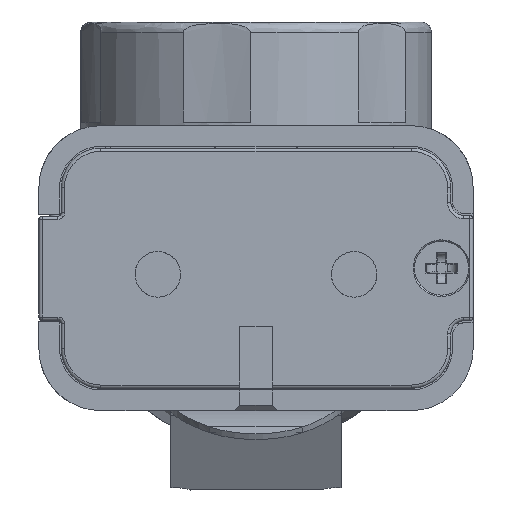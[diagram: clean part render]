
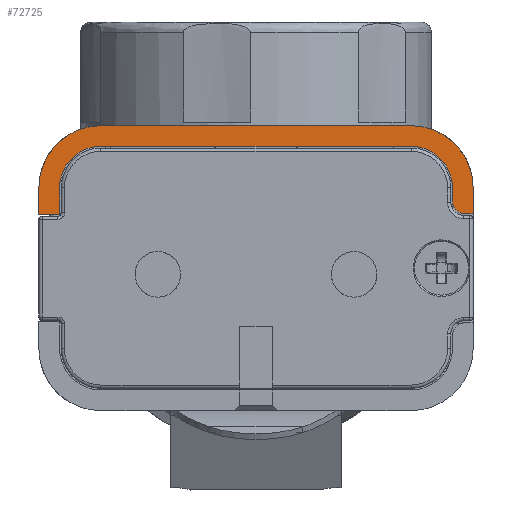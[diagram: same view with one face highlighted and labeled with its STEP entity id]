
A CAD part, front view. The second image highlights one B-rep face of the part: STEP entity #72725.
In plain terms, the highlighted planar face has unit normal (0, -1, 0) as drawn and (0, 0, -1) by its records, which use the part's own axes.
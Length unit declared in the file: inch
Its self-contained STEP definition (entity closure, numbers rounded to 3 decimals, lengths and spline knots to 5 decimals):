
#257 = ORIENTED_EDGE ( 'NONE', *, *, #60369, .F. ) ;
#299 = CARTESIAN_POINT ( 'NONE',  ( 1.18788, -0.26603, -2.567 ) ) ;
#1571 = VERTEX_POINT ( 'NONE', #76363 ) ;
#1895 = CIRCLE ( 'NONE', #27586, 0.375 ) ;
#2346 = VERTEX_POINT ( 'NONE', #21755 ) ;
#3859 = ORIENTED_EDGE ( 'NONE', *, *, #70176, .F. ) ;
#3864 = CARTESIAN_POINT ( 'NONE',  ( -1.31288, -0.26603, -2.567 ) ) ;
#4079 = DIRECTION ( 'NONE',  ( 0., 0., 1. ) ) ;
#4846 = DIRECTION ( 'NONE',  ( 0., -1., 0. ) ) ;
#5383 = CARTESIAN_POINT ( 'NONE',  ( 0.93788, -0.64103, -2.567 ) ) ;
#7692 = CARTESIAN_POINT ( 'NONE',  ( -0.93788, -0.51603, -2.567 ) ) ;
#8318 = EDGE_CURVE ( 'NONE', #66643, #16375, #48328, .T. ) ;
#8803 = ORIENTED_EDGE ( 'NONE', *, *, #22069, .T. ) ;
#8861 = LINE ( 'NONE', #299, #59658 ) ;
#8920 = CARTESIAN_POINT ( 'NONE',  ( -0.93788, -0.64103, -2.567 ) ) ;
#8984 = CIRCLE ( 'NONE', #97490, 0.07874 ) ;
#9020 = EDGE_CURVE ( 'NONE', #70859, #66643, #8861, .T. ) ;
#9208 = AXIS2_PLACEMENT_3D ( 'NONE', #46484, #61579, #55035 ) ;
#9941 = CARTESIAN_POINT ( 'NONE',  ( 0.93788, -0.51603, -2.567 ) ) ;
#10462 = CARTESIAN_POINT ( 'NONE',  ( -1.18788, -0.26603, -2.567 ) ) ;
#10577 = DIRECTION ( 'NONE',  ( 1., 0., 0. ) ) ;
#11908 = LINE ( 'NONE', #3864, #91564 ) ;
#13324 = CARTESIAN_POINT ( 'NONE',  ( -1.18788, -0.10472, -2.567 ) ) ;
#14497 = DIRECTION ( 'NONE',  ( 1., 0., 0. ) ) ;
#16124 = DIRECTION ( 'NONE',  ( 0., 0., -1. ) ) ;
#16332 = CARTESIAN_POINT ( 'NONE',  ( -0.93788, -0.64103, -2.567 ) ) ;
#16375 = VERTEX_POINT ( 'NONE', #9941 ) ;
#17953 = DIRECTION ( 'NONE',  ( -1., 0., 0. ) ) ;
#18260 = VECTOR ( 'NONE', #64308, 39.37008 ) ;
#20032 = CARTESIAN_POINT ( 'NONE',  ( 1.18788, -0.26603, -2.567 ) ) ;
#20228 = EDGE_CURVE ( 'NONE', #69282, #52645, #52592, .T. ) ;
#21755 = CARTESIAN_POINT ( 'NONE',  ( -1.31288, -0.10472, -2.567 ) ) ;
#22069 = EDGE_CURVE ( 'NONE', #2346, #95927, #82004, .T. ) ;
#24036 = CARTESIAN_POINT ( 'NONE',  ( 1.26662, -0.10846, -2.567 ) ) ;
#24077 = DIRECTION ( 'NONE',  ( -1., 0., 0. ) ) ;
#24567 = CARTESIAN_POINT ( 'NONE',  ( 0.93788, -0.26603, -2.567 ) ) ;
#26174 = CARTESIAN_POINT ( 'NONE',  ( 1.26662, -0.1872, -2.567 ) ) ;
#27205 = VERTEX_POINT ( 'NONE', #50253 ) ;
#27586 = AXIS2_PLACEMENT_3D ( 'NONE', #39018, #40511, #48083 ) ;
#27810 = CIRCLE ( 'NONE', #40686, 0.375 ) ;
#27955 = ORIENTED_EDGE ( 'NONE', *, *, #9020, .F. ) ;
#28270 = EDGE_CURVE ( 'NONE', #1571, #40901, #83106, .T. ) ;
#29056 = AXIS2_PLACEMENT_3D ( 'NONE', #24567, #30616, #24077 ) ;
#30616 = DIRECTION ( 'NONE',  ( 0., 0., -1. ) ) ;
#32406 = ORIENTED_EDGE ( 'NONE', *, *, #55524, .T. ) ;
#32730 = DIRECTION ( 'NONE',  ( -1., 0., 0. ) ) ;
#33101 = LINE ( 'NONE', #10462, #18260 ) ;
#33306 = VERTEX_POINT ( 'NONE', #5383 ) ;
#36208 = ORIENTED_EDGE ( 'NONE', *, *, #82889, .F. ) ;
#39018 = CARTESIAN_POINT ( 'NONE',  ( -0.93788, -0.26603, -2.567 ) ) ;
#40099 = ORIENTED_EDGE ( 'NONE', *, *, #28270, .T. ) ;
#40511 = DIRECTION ( 'NONE',  ( 0., 0., 1. ) ) ;
#40686 = AXIS2_PLACEMENT_3D ( 'NONE', #58901, #50365, #89634 ) ;
#40901 = VERTEX_POINT ( 'NONE', #43936 ) ;
#41160 = VECTOR ( 'NONE', #32730, 39.37008 ) ;
#43936 = CARTESIAN_POINT ( 'NONE',  ( 1.31288, -0.26603, -2.567 ) ) ;
#46484 = CARTESIAN_POINT ( 'NONE',  ( -0.93788, -0.26603, -2.567 ) ) ;
#47933 = VECTOR ( 'NONE', #14497, 39.37008 ) ;
#48083 = DIRECTION ( 'NONE',  ( 1., 0., 0. ) ) ;
#48328 = CIRCLE ( 'NONE', #29056, 0.25 ) ;
#50253 = CARTESIAN_POINT ( 'NONE',  ( -1.31288, -0.26603, -2.567 ) ) ;
#50365 = DIRECTION ( 'NONE',  ( 0., 0., 1. ) ) ;
#50867 = FACE_OUTER_BOUND ( 'NONE', #75928, .T. ) ;
#52058 = LINE ( 'NONE', #90837, #74686 ) ;
#52592 = CIRCLE ( 'NONE', #9208, 0.25 ) ;
#52645 = VERTEX_POINT ( 'NONE', #73726 ) ;
#52841 = ORIENTED_EDGE ( 'NONE', *, *, #8318, .F. ) ;
#55035 = DIRECTION ( 'NONE',  ( -1., 0., 0. ) ) ;
#55524 = EDGE_CURVE ( 'NONE', #33306, #56105, #56223, .T. ) ;
#56105 = VERTEX_POINT ( 'NONE', #16332 ) ;
#56223 = LINE ( 'NONE', #8920, #67390 ) ;
#56321 = VECTOR ( 'NONE', #75565, 39.37008 ) ;
#58438 = CARTESIAN_POINT ( 'NONE',  ( 1.31288, 0.70658, -2.567 ) ) ;
#58901 = CARTESIAN_POINT ( 'NONE',  ( 0.93788, -0.26603, -2.567 ) ) ;
#59658 = VECTOR ( 'NONE', #93461, 39.37008 ) ;
#60369 = EDGE_CURVE ( 'NONE', #27205, #56105, #1895, .T. ) ;
#61579 = DIRECTION ( 'NONE',  ( 0., 0., -1. ) ) ;
#64308 = DIRECTION ( 'NONE',  ( 0., -1., 0. ) ) ;
#64422 = CARTESIAN_POINT ( 'NONE',  ( 0.93788, -0.51603, -2.567 ) ) ;
#65093 = CARTESIAN_POINT ( 'NONE',  ( 1.18788, -0.1872, -2.567 ) ) ;
#65101 = ORIENTED_EDGE ( 'NONE', *, *, #70190, .T. ) ;
#66643 = VERTEX_POINT ( 'NONE', #20032 ) ;
#67390 = VECTOR ( 'NONE', #17953, 39.37008 ) ;
#69282 = VERTEX_POINT ( 'NONE', #7692 ) ;
#69681 = ORIENTED_EDGE ( 'NONE', *, *, #20228, .F. ) ;
#70176 = EDGE_CURVE ( 'NONE', #16375, #69282, #95188, .T. ) ;
#70190 = EDGE_CURVE ( 'NONE', #70859, #75737, #8984, .T. ) ;
#70859 = VERTEX_POINT ( 'NONE', #65093 ) ;
#72725 = ADVANCED_FACE ( 'NONE', ( #50867 ), #73061, .F. ) ;
#73061 = PLANE ( 'NONE',  #73600 ) ;
#73600 = AXIS2_PLACEMENT_3D ( 'NONE', #90142, #4079, #82093 ) ;
#73726 = CARTESIAN_POINT ( 'NONE',  ( -1.18788, -0.26603, -2.567 ) ) ;
#74686 = VECTOR ( 'NONE', #98926, 39.37008 ) ;
#75565 = DIRECTION ( 'NONE',  ( 0., -1., 0. ) ) ;
#75737 = VERTEX_POINT ( 'NONE', #24036 ) ;
#75842 = EDGE_CURVE ( 'NONE', #2346, #27205, #11908, .T. ) ;
#75928 = EDGE_LOOP ( 'NONE', ( #27955, #65101, #78034, #40099, #36208, #32406, #257, #77864, #8803, #88218, #69681, #3859, #52841 ) ) ;
#76363 = CARTESIAN_POINT ( 'NONE',  ( 1.31288, -0.10846, -2.567 ) ) ;
#77864 = ORIENTED_EDGE ( 'NONE', *, *, #75842, .F. ) ;
#78034 = ORIENTED_EDGE ( 'NONE', *, *, #88002, .F. ) ;
#82004 = LINE ( 'NONE', #98634, #47933 ) ;
#82093 = DIRECTION ( 'NONE',  ( 1., 0., 0. ) ) ;
#82889 = EDGE_CURVE ( 'NONE', #33306, #40901, #27810, .T. ) ;
#83106 = LINE ( 'NONE', #58438, #56321 ) ;
#86670 = EDGE_CURVE ( 'NONE', #95927, #52645, #33101, .T. ) ;
#88002 = EDGE_CURVE ( 'NONE', #1571, #75737, #52058, .T. ) ;
#88218 = ORIENTED_EDGE ( 'NONE', *, *, #86670, .T. ) ;
#89634 = DIRECTION ( 'NONE',  ( 1., 0., 0. ) ) ;
#90142 = CARTESIAN_POINT ( 'NONE',  ( 0.93788, -0.26603, -2.567 ) ) ;
#90837 = CARTESIAN_POINT ( 'NONE',  ( 0.93788, -0.10846, -2.567 ) ) ;
#91564 = VECTOR ( 'NONE', #4846, 39.37008 ) ;
#93461 = DIRECTION ( 'NONE',  ( 0., -1., 0. ) ) ;
#95188 = LINE ( 'NONE', #64422, #41160 ) ;
#95927 = VERTEX_POINT ( 'NONE', #13324 ) ;
#97490 = AXIS2_PLACEMENT_3D ( 'NONE', #26174, #16124, #10577 ) ;
#98634 = CARTESIAN_POINT ( 'NONE',  ( -1.06288, -0.10472, -2.567 ) ) ;
#98926 = DIRECTION ( 'NONE',  ( -1., 0., 0. ) ) ;
